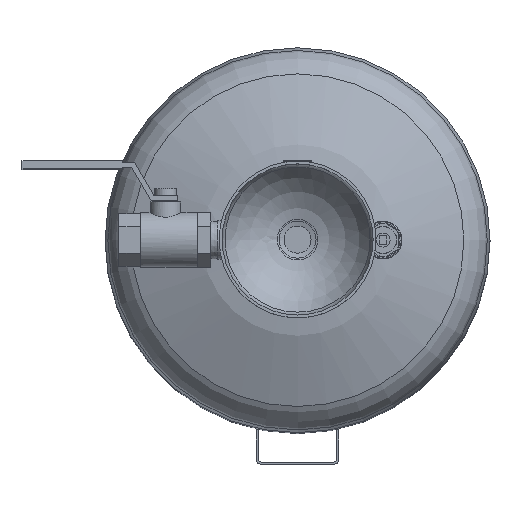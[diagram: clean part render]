
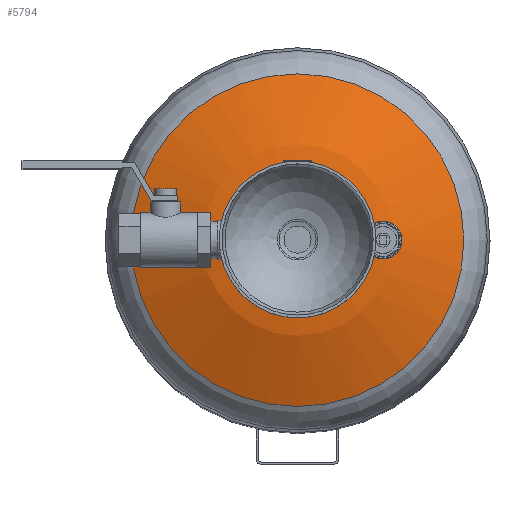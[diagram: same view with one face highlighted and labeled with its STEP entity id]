
A CAD part, top view. The second image highlights one B-rep face of the part: STEP entity #5794.
In plain terms, the highlighted spherical face has radius 272.5 mm.
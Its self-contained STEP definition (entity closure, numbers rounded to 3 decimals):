
#16=SPHERICAL_SURFACE('',#6351,272.5);
#129=FACE_BOUND('',#997,.T.);
#631=FACE_OUTER_BOUND('',#996,.T.);
#996=EDGE_LOOP('',(#5067,#5068,#5069,#5070,#5071,#5072));
#997=EDGE_LOOP('',(#5073,#5074));
#1283=CIRCLE('',#6348,116.661);
#1284=CIRCLE('',#6349,116.661);
#1286=CIRCLE('',#6352,15.019);
#1287=CIRCLE('',#6353,15.019);
#1288=CIRCLE('',#6354,272.5);
#2406=B_SPLINE_CURVE_WITH_KNOTS('',3,(#9011,#9012,#9013,#9014,#9015,#9016,
#9017,#9018,#9019,#9020,#9021,#9022,#9023,#9024,#9025,#9026,#9027,#9028),
 .UNSPECIFIED.,.F.,.F.,(4,2,2,2,2,2,2,2,4),(0.,0.498,0.997,
1.509,2.021,2.534,3.046,3.545,
4.043),.UNSPECIFIED.);
#2407=B_SPLINE_CURVE_WITH_KNOTS('',3,(#9029,#9030,#9031,#9032,#9033,#9034,
#9035,#9036,#9037,#9038,#9039,#9040,#9041,#9042,#9043,#9044,#9045,#9046),
 .UNSPECIFIED.,.F.,.F.,(4,2,2,2,2,2,2,2,4),(4.043,4.542,
5.04,5.553,6.065,6.578,7.09,
7.588,8.087),.UNSPECIFIED.);
#2581=VERTEX_POINT('',#9009);
#2582=VERTEX_POINT('',#9010);
#2847=VERTEX_POINT('',#9871);
#2848=VERTEX_POINT('',#9872);
#2849=VERTEX_POINT('',#9877);
#2850=VERTEX_POINT('',#9878);
#3223=EDGE_CURVE('',#2581,#2582,#2406,.T.);
#3224=EDGE_CURVE('',#2582,#2581,#2407,.T.);
#3625=EDGE_CURVE('',#2847,#2848,#1283,.T.);
#3626=EDGE_CURVE('',#2848,#2847,#1284,.T.);
#3628=EDGE_CURVE('',#2849,#2850,#1286,.T.);
#3629=EDGE_CURVE('',#2850,#2849,#1287,.T.);
#3630=EDGE_CURVE('',#2850,#2848,#1288,.T.);
#5067=ORIENTED_EDGE('',*,*,#3628,.F.);
#5068=ORIENTED_EDGE('',*,*,#3629,.F.);
#5069=ORIENTED_EDGE('',*,*,#3630,.T.);
#5070=ORIENTED_EDGE('',*,*,#3626,.T.);
#5071=ORIENTED_EDGE('',*,*,#3625,.T.);
#5072=ORIENTED_EDGE('',*,*,#3630,.F.);
#5073=ORIENTED_EDGE('',*,*,#3223,.T.);
#5074=ORIENTED_EDGE('',*,*,#3224,.T.);
#5794=ADVANCED_FACE('',(#631,#129),#16,.T.);
#6348=AXIS2_PLACEMENT_3D('',#9873,#7892,#7893);
#6349=AXIS2_PLACEMENT_3D('',#9874,#7894,#7895);
#6351=AXIS2_PLACEMENT_3D('',#9876,#7898,#7899);
#6352=AXIS2_PLACEMENT_3D('',#9879,#7900,#7901);
#6353=AXIS2_PLACEMENT_3D('',#9880,#7902,#7903);
#6354=AXIS2_PLACEMENT_3D('',#9881,#7904,#7905);
#7892=DIRECTION('center_axis',(0.,0.,1.));
#7893=DIRECTION('ref_axis',(1.,0.,0.));
#7894=DIRECTION('center_axis',(0.,0.,1.));
#7895=DIRECTION('ref_axis',(1.,0.,0.));
#7898=DIRECTION('center_axis',(0.,0.,1.));
#7899=DIRECTION('ref_axis',(1.,0.,0.));
#7900=DIRECTION('center_axis',(0.,0.,1.));
#7901=DIRECTION('ref_axis',(1.,0.,0.));
#7902=DIRECTION('center_axis',(0.,0.,1.));
#7903=DIRECTION('ref_axis',(1.,0.,0.));
#7904=DIRECTION('center_axis',(0.,-1.,0.));
#7905=DIRECTION('ref_axis',(-1.,0.,0.));
#9009=CARTESIAN_POINT('',(46.75,0.,644.336));
#9010=CARTESIAN_POINT('',(73.25,0.,638.347));
#9011=CARTESIAN_POINT('Ctrl Pts',(46.75,0.,
644.336));
#9012=CARTESIAN_POINT('Ctrl Pts',(46.75,1.662,644.336));
#9013=CARTESIAN_POINT('Ctrl Pts',(47.082,3.431,644.262));
#9014=CARTESIAN_POINT('Ctrl Pts',(48.422,6.679,643.962));
#9015=CARTESIAN_POINT('Ctrl Pts',(49.431,8.158,643.737));
#9016=CARTESIAN_POINT('Ctrl Pts',(51.773,10.522,643.212));
#9017=CARTESIAN_POINT('Ctrl Pts',(53.274,11.553,642.875));
#9018=CARTESIAN_POINT('Ctrl Pts',(56.555,12.917,642.136));
#9019=CARTESIAN_POINT('Ctrl Pts',(58.334,13.25,641.735));
#9020=CARTESIAN_POINT('Ctrl Pts',(61.666,13.25,640.982));
#9021=CARTESIAN_POINT('Ctrl Pts',(63.446,12.917,640.579));
#9022=CARTESIAN_POINT('Ctrl Pts',(66.727,11.553,639.834));
#9023=CARTESIAN_POINT('Ctrl Pts',(68.229,10.521,639.492));
#9024=CARTESIAN_POINT('Ctrl Pts',(70.57,8.157,638.959));
#9025=CARTESIAN_POINT('Ctrl Pts',(71.578,6.678,638.729));
#9026=CARTESIAN_POINT('Ctrl Pts',(72.918,3.431,638.423));
#9027=CARTESIAN_POINT('Ctrl Pts',(73.25,1.662,638.347));
#9028=CARTESIAN_POINT('Ctrl Pts',(73.25,0.,
638.347));
#9029=CARTESIAN_POINT('Ctrl Pts',(73.25,0.,
638.347));
#9030=CARTESIAN_POINT('Ctrl Pts',(73.25,-1.662,638.347));
#9031=CARTESIAN_POINT('Ctrl Pts',(72.918,-3.431,638.423));
#9032=CARTESIAN_POINT('Ctrl Pts',(71.578,-6.678,638.729));
#9033=CARTESIAN_POINT('Ctrl Pts',(70.57,-8.157,638.959));
#9034=CARTESIAN_POINT('Ctrl Pts',(68.229,-10.521,639.492));
#9035=CARTESIAN_POINT('Ctrl Pts',(66.727,-11.553,639.834));
#9036=CARTESIAN_POINT('Ctrl Pts',(63.446,-12.917,640.579));
#9037=CARTESIAN_POINT('Ctrl Pts',(61.666,-13.25,640.982));
#9038=CARTESIAN_POINT('Ctrl Pts',(58.334,-13.25,641.735));
#9039=CARTESIAN_POINT('Ctrl Pts',(56.555,-12.917,642.136));
#9040=CARTESIAN_POINT('Ctrl Pts',(53.274,-11.553,642.875));
#9041=CARTESIAN_POINT('Ctrl Pts',(51.773,-10.522,643.212));
#9042=CARTESIAN_POINT('Ctrl Pts',(49.431,-8.158,643.737));
#9043=CARTESIAN_POINT('Ctrl Pts',(48.422,-6.679,643.962));
#9044=CARTESIAN_POINT('Ctrl Pts',(47.082,-3.431,644.262));
#9045=CARTESIAN_POINT('Ctrl Pts',(46.75,-1.662,644.336));
#9046=CARTESIAN_POINT('Ctrl Pts',(46.75,0.,
644.336));
#9871=CARTESIAN_POINT('',(116.661,0.,622.141));
#9872=CARTESIAN_POINT('',(-116.661,0.,622.141));
#9873=CARTESIAN_POINT('Origin',(0.,0.,622.141));
#9874=CARTESIAN_POINT('Origin',(0.,0.,622.141));
#9876=CARTESIAN_POINT('Origin',(0.,0.,375.876));
#9877=CARTESIAN_POINT('',(15.019,0.,647.962));
#9878=CARTESIAN_POINT('',(-15.019,0.,647.962));
#9879=CARTESIAN_POINT('Origin',(0.,0.,647.962));
#9880=CARTESIAN_POINT('Origin',(0.,0.,647.962));
#9881=CARTESIAN_POINT('Origin',(0.,0.,375.876));
